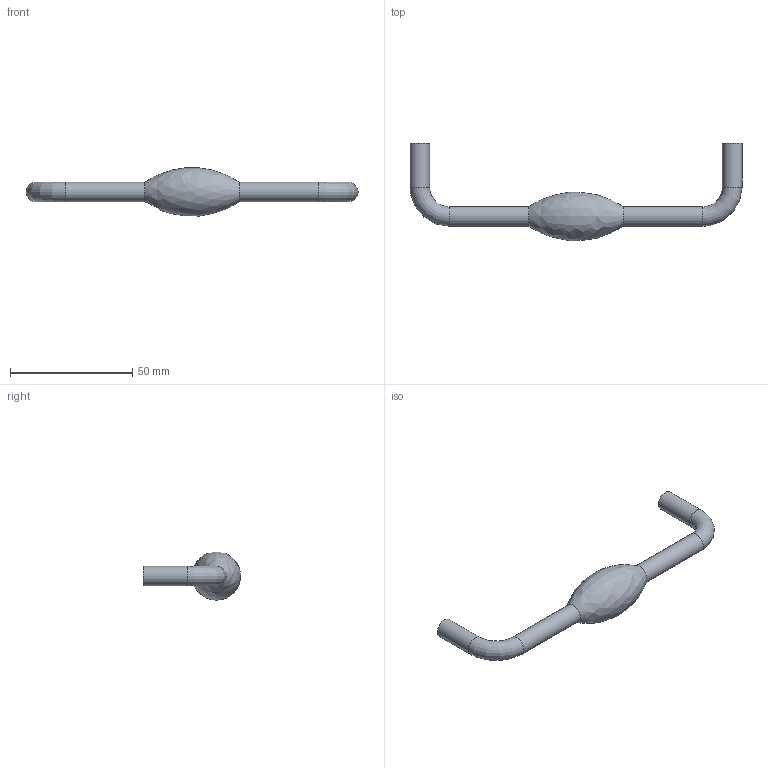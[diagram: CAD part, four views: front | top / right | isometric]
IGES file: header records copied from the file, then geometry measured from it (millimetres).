
Start section: Data from Parasolid IGES Translator 15.0.47, Copyright(c) 2006 Siemens P LM Software. All Rights Reserved.
Global section: file name: 9070943.igs; native system:  By UGS Corp.; preprocessor: XPlus GENERIC/IGES 3.0; author: Noname; organization: Noname; date: 20140122.103956; units: millimetre
Bounding box: 136 x 39.97 x 19.75 mm (x, y, z)
Surface area: 5856.4 mm2 (no closed solid volume)
Topology: 0 solids, 0 shells, 13 faces, 50 edges, 42 vertices
Faces by surface type: revolution 9, extrusion 4
